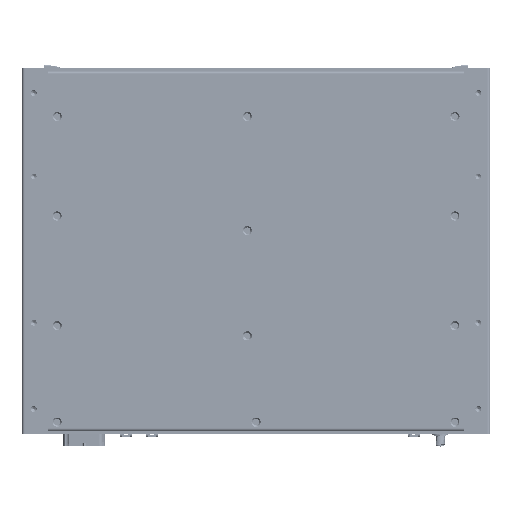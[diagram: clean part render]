
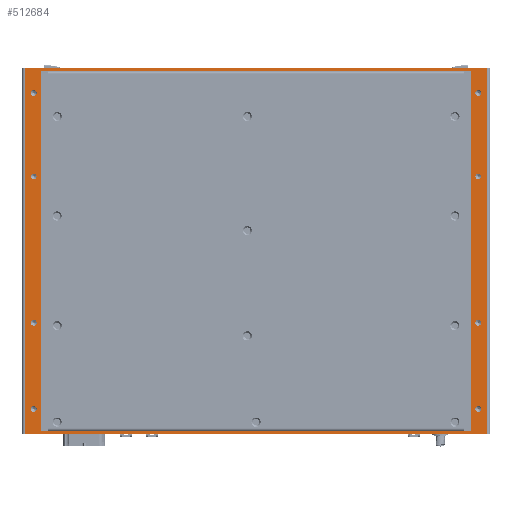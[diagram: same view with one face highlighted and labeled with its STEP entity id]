
A CAD part, front view. The second image highlights one B-rep face of the part: STEP entity #512684.
In plain terms, the highlighted planar face has unit normal (0, -1, 0).
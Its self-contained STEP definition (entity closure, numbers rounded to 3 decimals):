
#6180=FACE_BOUND('',#68851,.T.);
#6181=FACE_BOUND('',#68852,.T.);
#6182=FACE_BOUND('',#68853,.T.);
#6183=FACE_BOUND('',#68854,.T.);
#6184=FACE_BOUND('',#68855,.T.);
#6185=FACE_BOUND('',#68856,.T.);
#6186=FACE_BOUND('',#68857,.T.);
#6187=FACE_BOUND('',#68858,.T.);
#6188=FACE_BOUND('',#68859,.T.);
#18084=PLANE('',#548435);
#40518=FACE_OUTER_BOUND('',#68850,.T.);
#68850=EDGE_LOOP('',(#413445,#413446,#413447,#413448));
#68851=EDGE_LOOP('',(#413449));
#68852=EDGE_LOOP('',(#413450));
#68853=EDGE_LOOP('',(#413451));
#68854=EDGE_LOOP('',(#413452));
#68855=EDGE_LOOP('',(#413453,#413454,#413455,#413456));
#68856=EDGE_LOOP('',(#413457));
#68857=EDGE_LOOP('',(#413458));
#68858=EDGE_LOOP('',(#413459));
#68859=EDGE_LOOP('',(#413460));
#87653=CIRCLE('',#547675,2.);
#87655=CIRCLE('',#547679,2.);
#87660=CIRCLE('',#547690,2.025);
#87663=CIRCLE('',#547696,2.025);
#87698=CIRCLE('',#547768,2.);
#87700=CIRCLE('',#547772,2.);
#87704=CIRCLE('',#547782,2.025);
#87707=CIRCLE('',#547788,2.025);
#114355=LINE('',#753083,#167388);
#114594=LINE('',#753725,#167627);
#115509=LINE('',#767276,#168542);
#115923=LINE('',#768596,#168956);
#131657=LINE('',#835484,#184690);
#131658=LINE('',#835485,#184691);
#131659=LINE('',#835486,#184692);
#131660=LINE('',#835487,#184693);
#167388=VECTOR('',#603139,1000.);
#167627=VECTOR('',#603548,1000.);
#168542=VECTOR('',#607001,1000.);
#168956=VECTOR('',#608025,1000.);
#184690=VECTOR('',#650079,1000.);
#184691=VECTOR('',#650080,1000.);
#184692=VECTOR('',#650081,1000.);
#184693=VECTOR('',#650082,1000.);
#218309=VERTEX_POINT('',#753031);
#218332=VERTEX_POINT('',#753081);
#218649=VERTEX_POINT('',#753722);
#218650=VERTEX_POINT('',#753724);
#219688=VERTEX_POINT('',#767262);
#219694=VERTEX_POINT('',#767274);
#220294=VERTEX_POINT('',#768593);
#220295=VERTEX_POINT('',#768595);
#232619=VERTEX_POINT('',#833133);
#232622=VERTEX_POINT('',#833142);
#232630=VERTEX_POINT('',#833167);
#232634=VERTEX_POINT('',#833180);
#232678=VERTEX_POINT('',#833333);
#232681=VERTEX_POINT('',#833342);
#232688=VERTEX_POINT('',#833365);
#232692=VERTEX_POINT('',#833378);
#271955=EDGE_CURVE('',#218309,#218332,#114355,.T.);
#272274=EDGE_CURVE('',#218649,#218650,#114594,.T.);
#274038=EDGE_CURVE('',#219688,#219694,#115509,.T.);
#274675=EDGE_CURVE('',#220294,#220295,#115923,.T.);
#294868=EDGE_CURVE('',#232619,#232619,#87653,.T.);
#294872=EDGE_CURVE('',#232622,#232622,#87655,.T.);
#294883=EDGE_CURVE('',#232630,#232630,#87660,.T.);
#294889=EDGE_CURVE('',#232634,#232634,#87663,.T.);
#294961=EDGE_CURVE('',#232678,#232678,#87698,.T.);
#294965=EDGE_CURVE('',#232681,#232681,#87700,.T.);
#294975=EDGE_CURVE('',#232688,#232688,#87704,.T.);
#294981=EDGE_CURVE('',#232692,#232692,#87707,.T.);
#296034=EDGE_CURVE('',#218649,#220295,#131657,.T.);
#296035=EDGE_CURVE('',#220294,#218650,#131658,.T.);
#296036=EDGE_CURVE('',#218332,#219688,#131659,.T.);
#296037=EDGE_CURVE('',#218309,#219694,#131660,.T.);
#413445=ORIENTED_EDGE('',*,*,#296034,.T.);
#413446=ORIENTED_EDGE('',*,*,#274675,.F.);
#413447=ORIENTED_EDGE('',*,*,#296035,.T.);
#413448=ORIENTED_EDGE('',*,*,#272274,.F.);
#413449=ORIENTED_EDGE('',*,*,#294889,.F.);
#413450=ORIENTED_EDGE('',*,*,#294883,.F.);
#413451=ORIENTED_EDGE('',*,*,#294872,.F.);
#413452=ORIENTED_EDGE('',*,*,#294868,.F.);
#413453=ORIENTED_EDGE('',*,*,#271955,.T.);
#413454=ORIENTED_EDGE('',*,*,#296036,.T.);
#413455=ORIENTED_EDGE('',*,*,#274038,.T.);
#413456=ORIENTED_EDGE('',*,*,#296037,.F.);
#413457=ORIENTED_EDGE('',*,*,#294961,.F.);
#413458=ORIENTED_EDGE('',*,*,#294965,.F.);
#413459=ORIENTED_EDGE('',*,*,#294975,.F.);
#413460=ORIENTED_EDGE('',*,*,#294981,.F.);
#512684=ADVANCED_FACE('',(#40518,#6180,#6181,#6182,#6183,#6184,#6185,#6186,
#6187,#6188),#18084,.F.);
#547675=AXIS2_PLACEMENT_3D('',#833135,#647789,#647790);
#547679=AXIS2_PLACEMENT_3D('',#833144,#647799,#647800);
#547690=AXIS2_PLACEMENT_3D('',#833169,#647827,#647828);
#547696=AXIS2_PLACEMENT_3D('',#833182,#647842,#647843);
#547768=AXIS2_PLACEMENT_3D('',#833335,#648023,#648024);
#547772=AXIS2_PLACEMENT_3D('',#833344,#648033,#648034);
#547782=AXIS2_PLACEMENT_3D('',#833367,#648059,#648060);
#547788=AXIS2_PLACEMENT_3D('',#833380,#648074,#648075);
#548435=AXIS2_PLACEMENT_3D('',#835483,#650077,#650078);
#603139=DIRECTION('',(-1.,0.,0.));
#603548=DIRECTION('',(-1.,0.,0.));
#607001=DIRECTION('',(1.,0.,0.));
#608025=DIRECTION('',(1.,0.,0.));
#647789=DIRECTION('center_axis',(0.,-1.,0.));
#647790=DIRECTION('ref_axis',(1.,0.,0.));
#647799=DIRECTION('center_axis',(0.,-1.,0.));
#647800=DIRECTION('ref_axis',(1.,0.,0.));
#647827=DIRECTION('center_axis',(0.,-1.,0.));
#647828=DIRECTION('ref_axis',(1.,0.,0.));
#647842=DIRECTION('center_axis',(0.,-1.,0.));
#647843=DIRECTION('ref_axis',(1.,0.,0.));
#648023=DIRECTION('center_axis',(0.,-1.,0.));
#648024=DIRECTION('ref_axis',(1.,0.,0.));
#648033=DIRECTION('center_axis',(0.,-1.,0.));
#648034=DIRECTION('ref_axis',(1.,0.,0.));
#648059=DIRECTION('center_axis',(0.,-1.,0.));
#648060=DIRECTION('ref_axis',(1.,0.,0.));
#648074=DIRECTION('center_axis',(0.,-1.,0.));
#648075=DIRECTION('ref_axis',(1.,0.,0.));
#650077=DIRECTION('center_axis',(0.,1.,0.));
#650078=DIRECTION('ref_axis',(-1.,0.,0.));
#650079=DIRECTION('',(0.,0.,1.));
#650080=DIRECTION('',(0.,0.,-1.));
#650081=DIRECTION('',(0.,0.,1.));
#650082=DIRECTION('',(0.,0.,1.));
#753031=CARTESIAN_POINT('',(-13.,0.,2.));
#753081=CARTESIAN_POINT('',(-307.,0.,2.));
#753083=CARTESIAN_POINT('',(-320.,0.,2.));
#753722=CARTESIAN_POINT('',(-2.,0.,0.));
#753724=CARTESIAN_POINT('',(-318.,0.,0.));
#753725=CARTESIAN_POINT('',(-320.,0.,0.));
#767262=CARTESIAN_POINT('',(-307.,0.,248.));
#767274=CARTESIAN_POINT('',(-13.,0.,248.));
#767276=CARTESIAN_POINT('',(-320.,0.,248.));
#768593=CARTESIAN_POINT('',(-318.,0.,250.));
#768595=CARTESIAN_POINT('',(-2.,0.,250.));
#768596=CARTESIAN_POINT('',(-320.,0.,250.));
#833133=CARTESIAN_POINT('',(-10.,0.,176.));
#833135=CARTESIAN_POINT('Origin',(-8.,0.,
176.));
#833142=CARTESIAN_POINT('',(-10.,0.,76.));
#833144=CARTESIAN_POINT('Origin',(-8.,0.,
76.));
#833167=CARTESIAN_POINT('',(-10.025,0.,233.));
#833169=CARTESIAN_POINT('Origin',(-8.,0.,
233.));
#833180=CARTESIAN_POINT('',(-10.025,0.,17.));
#833182=CARTESIAN_POINT('Origin',(-8.,0.,
17.));
#833333=CARTESIAN_POINT('',(-314.,0.,176.));
#833335=CARTESIAN_POINT('Origin',(-312.,0.,176.));
#833342=CARTESIAN_POINT('',(-314.,0.,76.));
#833344=CARTESIAN_POINT('Origin',(-312.,0.,76.));
#833365=CARTESIAN_POINT('',(-314.025,0.,233.));
#833367=CARTESIAN_POINT('Origin',(-312.,0.,233.));
#833378=CARTESIAN_POINT('',(-314.025,0.,17.));
#833380=CARTESIAN_POINT('Origin',(-312.,0.,17.));
#835483=CARTESIAN_POINT('Origin',(-160.,0.,248.));
#835484=CARTESIAN_POINT('',(-2.,0.,2.));
#835485=CARTESIAN_POINT('',(-318.,0.,2.));
#835486=CARTESIAN_POINT('',(-307.,0.,-292.002));
#835487=CARTESIAN_POINT('',(-13.,0.,-292.002));
